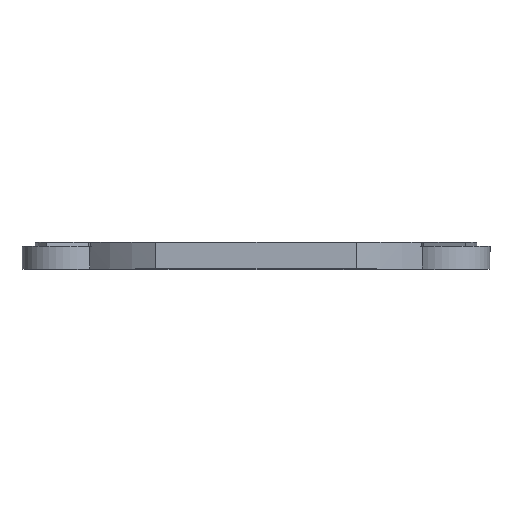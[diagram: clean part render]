
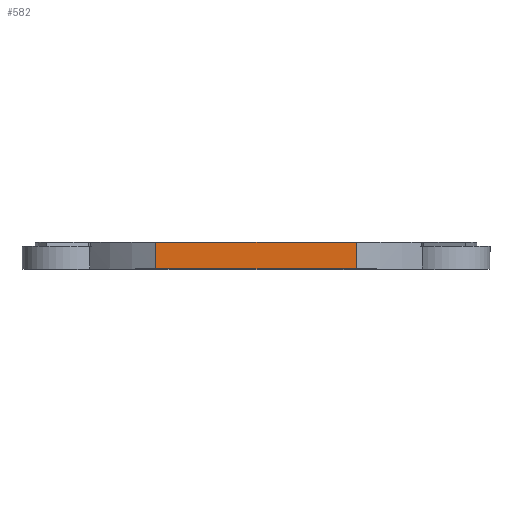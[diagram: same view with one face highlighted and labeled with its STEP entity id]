
A CAD part, top view. The second image highlights one B-rep face of the part: STEP entity #582.
In plain terms, the highlighted planar face has unit normal (0, 0, 1).
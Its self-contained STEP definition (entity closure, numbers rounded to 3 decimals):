
#32 = CYLINDRICAL_SURFACE('',#33,16.5);
#33 = AXIS2_PLACEMENT_3D('',#34,#35,#36);
#34 = CARTESIAN_POINT('',(0.,-29.6,-51.));
#35 = DIRECTION('',(0.,-1.,0.));
#36 = DIRECTION('',(1.,0.,0.));
#114 = VERTEX_POINT('',#115);
#115 = CARTESIAN_POINT('',(7.494,-29.6,-36.3));
#130 = PLANE('',#131);
#131 = AXIS2_PLACEMENT_3D('',#132,#133,#134);
#132 = CARTESIAN_POINT('',(0.,-29.6,-51.));
#133 = DIRECTION('',(0.,-1.,0.));
#134 = DIRECTION('',(1.,0.,0.));
#142 = EDGE_CURVE('',#114,#143,#145,.T.);
#143 = VERTEX_POINT('',#144);
#144 = CARTESIAN_POINT('',(7.494,-31.6,-36.3));
#145 = SURFACE_CURVE('',#146,(#150,#156),.PCURVE_S1.);
#146 = LINE('',#147,#148);
#147 = CARTESIAN_POINT('',(7.494,-29.6,-36.3));
#148 = VECTOR('',#149,1.);
#149 = DIRECTION('',(0.,-1.,0.));
#150 = PCURVE('',#32,#151);
#151 = DEFINITIONAL_REPRESENTATION('',(#152),#155);
#152 = B_SPLINE_CURVE_WITH_KNOTS('',1,(#153,#154),.UNSPECIFIED.,.F.,.F.,
  (2,2),(0.,2.),.PIECEWISE_BEZIER_KNOTS.);
#153 = CARTESIAN_POINT('',(1.099,0.));
#154 = CARTESIAN_POINT('',(1.099,2.));
#155 = ( GEOMETRIC_REPRESENTATION_CONTEXT(2) 
PARAMETRIC_REPRESENTATION_CONTEXT() REPRESENTATION_CONTEXT('2D SPACE',''
  ) );
#156 = PCURVE('',#157,#162);
#157 = PLANE('',#158);
#158 = AXIS2_PLACEMENT_3D('',#159,#160,#161);
#159 = CARTESIAN_POINT('',(-30.,-32.6,-36.3));
#160 = DIRECTION('',(0.,0.,1.));
#161 = DIRECTION('',(1.,0.,0.));
#162 = DEFINITIONAL_REPRESENTATION('',(#163),#166);
#163 = B_SPLINE_CURVE_WITH_KNOTS('',1,(#164,#165),.UNSPECIFIED.,.F.,.F.,
  (2,2),(0.,2.),.PIECEWISE_BEZIER_KNOTS.);
#164 = CARTESIAN_POINT('',(37.494,3.));
#165 = CARTESIAN_POINT('',(37.494,1.));
#166 = ( GEOMETRIC_REPRESENTATION_CONTEXT(2) 
PARAMETRIC_REPRESENTATION_CONTEXT() REPRESENTATION_CONTEXT('2D SPACE',''
  ) );
#183 = PLANE('',#184);
#184 = AXIS2_PLACEMENT_3D('',#185,#186,#187);
#185 = CARTESIAN_POINT('',(0.,-31.6,-51.));
#186 = DIRECTION('',(0.,-1.,0.));
#187 = DIRECTION('',(1.,0.,0.));
#316 = EDGE_CURVE('',#143,#317,#319,.T.);
#317 = VERTEX_POINT('',#318);
#318 = CARTESIAN_POINT('',(-7.494,-31.6,-36.3));
#319 = SURFACE_CURVE('',#320,(#324,#330),.PCURVE_S1.);
#320 = LINE('',#321,#322);
#321 = CARTESIAN_POINT('',(-15.,-31.6,-36.3));
#322 = VECTOR('',#323,1.);
#323 = DIRECTION('',(-1.,0.,0.));
#324 = PCURVE('',#183,#325);
#325 = DEFINITIONAL_REPRESENTATION('',(#326),#329);
#326 = B_SPLINE_CURVE_WITH_KNOTS('',1,(#327,#328),.UNSPECIFIED.,.F.,.F.,
  (2,2),(-32.489,2.489),.PIECEWISE_BEZIER_KNOTS.);
#327 = CARTESIAN_POINT('',(17.489,14.7));
#328 = CARTESIAN_POINT('',(-17.489,14.7));
#329 = ( GEOMETRIC_REPRESENTATION_CONTEXT(2) 
PARAMETRIC_REPRESENTATION_CONTEXT() REPRESENTATION_CONTEXT('2D SPACE',''
  ) );
#330 = PCURVE('',#157,#331);
#331 = DEFINITIONAL_REPRESENTATION('',(#332),#335);
#332 = B_SPLINE_CURVE_WITH_KNOTS('',1,(#333,#334),.UNSPECIFIED.,.F.,.F.,
  (2,2),(-32.489,2.489),.PIECEWISE_BEZIER_KNOTS.);
#333 = CARTESIAN_POINT('',(47.489,1.));
#334 = CARTESIAN_POINT('',(12.511,1.));
#335 = ( GEOMETRIC_REPRESENTATION_CONTEXT(2) 
PARAMETRIC_REPRESENTATION_CONTEXT() REPRESENTATION_CONTEXT('2D SPACE',''
  ) );
#358 = CYLINDRICAL_SURFACE('',#359,16.5);
#359 = AXIS2_PLACEMENT_3D('',#360,#361,#362);
#360 = CARTESIAN_POINT('',(0.,-29.6,-51.));
#361 = DIRECTION('',(0.,-1.,0.));
#362 = DIRECTION('',(1.,0.,0.));
#582 = ADVANCED_FACE('',(#583),#157,.T.);
#583 = FACE_BOUND('',#584,.T.);
#584 = EDGE_LOOP('',(#585,#586,#607,#626));
#585 = ORIENTED_EDGE('',*,*,#142,.F.);
#586 = ORIENTED_EDGE('',*,*,#587,.T.);
#587 = EDGE_CURVE('',#114,#588,#590,.T.);
#588 = VERTEX_POINT('',#589);
#589 = CARTESIAN_POINT('',(-7.494,-29.6,-36.3));
#590 = SURFACE_CURVE('',#591,(#595,#601),.PCURVE_S1.);
#591 = LINE('',#592,#593);
#592 = CARTESIAN_POINT('',(-15.,-29.6,-36.3));
#593 = VECTOR('',#594,1.);
#594 = DIRECTION('',(-1.,0.,0.));
#595 = PCURVE('',#157,#596);
#596 = DEFINITIONAL_REPRESENTATION('',(#597),#600);
#597 = B_SPLINE_CURVE_WITH_KNOTS('',1,(#598,#599),.UNSPECIFIED.,.F.,.F.,
  (2,2),(-32.489,2.489),.PIECEWISE_BEZIER_KNOTS.);
#598 = CARTESIAN_POINT('',(47.489,3.));
#599 = CARTESIAN_POINT('',(12.511,3.));
#600 = ( GEOMETRIC_REPRESENTATION_CONTEXT(2) 
PARAMETRIC_REPRESENTATION_CONTEXT() REPRESENTATION_CONTEXT('2D SPACE',''
  ) );
#601 = PCURVE('',#130,#602);
#602 = DEFINITIONAL_REPRESENTATION('',(#603),#606);
#603 = B_SPLINE_CURVE_WITH_KNOTS('',1,(#604,#605),.UNSPECIFIED.,.F.,.F.,
  (2,2),(-32.489,2.489),.PIECEWISE_BEZIER_KNOTS.);
#604 = CARTESIAN_POINT('',(17.489,14.7));
#605 = CARTESIAN_POINT('',(-17.489,14.7));
#606 = ( GEOMETRIC_REPRESENTATION_CONTEXT(2) 
PARAMETRIC_REPRESENTATION_CONTEXT() REPRESENTATION_CONTEXT('2D SPACE',''
  ) );
#607 = ORIENTED_EDGE('',*,*,#608,.T.);
#608 = EDGE_CURVE('',#588,#317,#609,.T.);
#609 = SURFACE_CURVE('',#610,(#614,#620),.PCURVE_S1.);
#610 = LINE('',#611,#612);
#611 = CARTESIAN_POINT('',(-7.494,-29.6,-36.3));
#612 = VECTOR('',#613,1.);
#613 = DIRECTION('',(0.,-1.,0.));
#614 = PCURVE('',#157,#615);
#615 = DEFINITIONAL_REPRESENTATION('',(#616),#619);
#616 = B_SPLINE_CURVE_WITH_KNOTS('',1,(#617,#618),.UNSPECIFIED.,.F.,.F.,
  (2,2),(0.,2.),.PIECEWISE_BEZIER_KNOTS.);
#617 = CARTESIAN_POINT('',(22.506,3.));
#618 = CARTESIAN_POINT('',(22.506,1.));
#619 = ( GEOMETRIC_REPRESENTATION_CONTEXT(2) 
PARAMETRIC_REPRESENTATION_CONTEXT() REPRESENTATION_CONTEXT('2D SPACE',''
  ) );
#620 = PCURVE('',#358,#621);
#621 = DEFINITIONAL_REPRESENTATION('',(#622),#625);
#622 = B_SPLINE_CURVE_WITH_KNOTS('',1,(#623,#624),.UNSPECIFIED.,.F.,.F.,
  (2,2),(0.,2.),.PIECEWISE_BEZIER_KNOTS.);
#623 = CARTESIAN_POINT('',(2.042,0.));
#624 = CARTESIAN_POINT('',(2.042,2.));
#625 = ( GEOMETRIC_REPRESENTATION_CONTEXT(2) 
PARAMETRIC_REPRESENTATION_CONTEXT() REPRESENTATION_CONTEXT('2D SPACE',''
  ) );
#626 = ORIENTED_EDGE('',*,*,#316,.F.);
